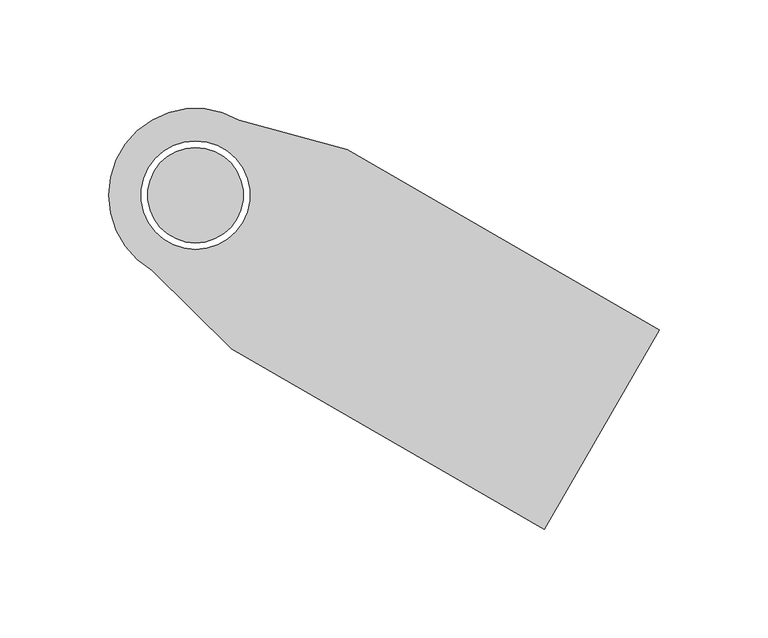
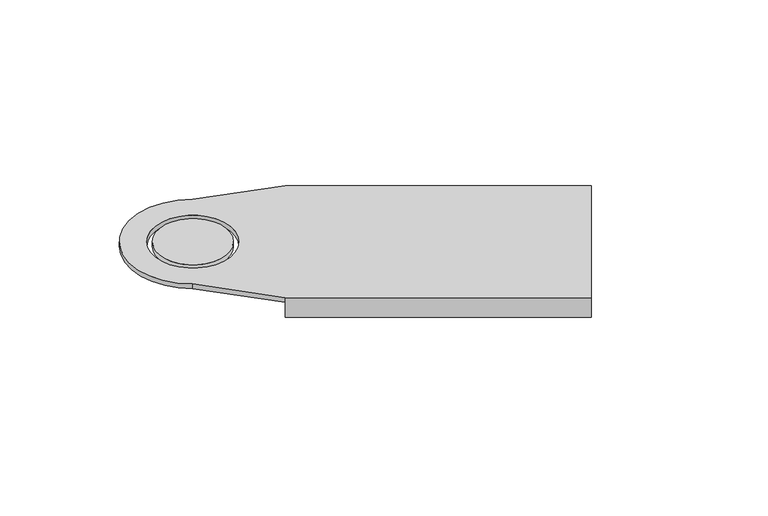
"""IFC4 building model written with IfcOpenShell, lengths in millimetres: cable carrier fitting geometry, BAKS_LDLS_BEND_Articulated connector for LLDS_LGSU : LGSUT_H100."""

from ifc_helpers import new_model, si_unit, frame, origin, place, context, project, spatial, polyline, circle_curve, source, transform, mapped, element, save
from ifc_brep_helpers import plane_surface, cylinder_surface, revolved_surface, advanced_brep


def cable_carrier_fitting_5c8b0443(model_context):
    return source(origin(), model_context, "Body", "AdvancedBrep", [
        advanced_brep(
        [(160.5614872, -153.8993464, 3.0), (213.5614872, -62.1006536, 3.0), (69.8012702, 20.8993464, 3.0), (20.0, 34.6410162, 3.0), (-20.0, -34.6410162, 3.0), (16.8012702, -70.8993464, 3.0), (-21.6506351, 12.5, 3.0), (21.6506351, -12.5, 3.0), (69.8012702, 20.8993464, 0.0), (68.3012702, 18.3012702, 0.0), (212.0614872, -64.6987298, 0.0), (162.0614872, -151.3012702, 0.0), (18.3012702, -68.3012702, 0.0), (16.8012702, -70.8993464, 0.0), (-20.0, -34.6410162, 0.0), (20.0, 34.6410162, 0.0), (21.6506351, -12.5, 0.0), (-21.6506351, 12.5, 0.0), (16.8012702, -70.8993464, -10.0), (160.5614872, -153.8993464, -10.0), (213.5614872, -62.1006536, -10.0), (69.8012702, 20.8993464, -10.0), (162.0614872, -151.3012702, -10.0), (212.0614872, -64.6987298, -10.0), (68.3012702, 18.3012702, -10.0), (18.3012702, -68.3012702, -10.0)],
        [
            (0, 1),
            (1, 2),
            (2, 3),
            (3, 4, circle_curve(frame((0.0, 0.0, 3.0), z_axis=(0.0, 0.0, 1.0), x_axis=(0.8660254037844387, -0.49999999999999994, 0.0)), 40.0)),
            (4, 5),
            (5, 0),
            (6, 7, circle_curve(frame((0.0, 0.0, 3.0), z_axis=(0.0, 0.0, -1.0), x_axis=(0.8660254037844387, -0.49999999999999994, 0.0)), 25.0)),
            (7, 6, circle_curve(frame((0.0, 0.0, 3.0), z_axis=(0.0, 0.0, -1.0), x_axis=(0.8660254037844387, -0.49999999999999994, 0.0)), 25.0)),
            (8, 9),
            (9, 10),
            (10, 11),
            (11, 12),
            (12, 13),
            (13, 14),
            (14, 15, circle_curve(frame((0.0, 0.0, 0.0), z_axis=(0.0, 0.0, -1.0), x_axis=(0.8660254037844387, -0.49999999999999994, 0.0)), 40.0)),
            (15, 8),
            (16, 17, circle_curve(frame((0.0, 0.0, 0.0), z_axis=(0.0, 0.0, 1.0), x_axis=(0.8660254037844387, -0.49999999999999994, 0.0)), 25.0)),
            (17, 16, circle_curve(frame((0.0, 0.0, 0.0), z_axis=(0.0, 0.0, 1.0), x_axis=(0.8660254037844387, -0.49999999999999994, 0.0)), 25.0)),
            (5, 13),
            (13, 18),
            (18, 19),
            (19, 0),
            (1, 20),
            (20, 21),
            (21, 8),
            (8, 2),
            (19, 22),
            (22, 11),
            (10, 23),
            (23, 20),
            (7, 16),
            (17, 6),
            (4, 14),
            (3, 15),
            (23, 24),
            (24, 21),
            (9, 24),
            (18, 25),
            (25, 22),
            (12, 25),
        ],
        [
            plane_surface(frame((16.8012702, -70.8993464, 3.0), z_axis=(0.0, 0.0, 1.0), x_axis=(-0.8660254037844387, 0.49999999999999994, 0.0))),
            plane_surface(frame((16.8012702, -70.8993464, 0.0), z_axis=(0.0, 0.0, -1.0), x_axis=(0.8660254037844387, -0.49999999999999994, 0.0))),
            plane_surface(frame((160.5614872, -153.8993464, 3.0), z_axis=(-0.49999999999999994, -0.8660254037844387, 0.0), x_axis=(0.0, 0.0, -1.0))),
            plane_surface(frame((69.8012702, 20.8993464, 3.0), z_axis=(0.49999999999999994, 0.8660254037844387, 0.0), x_axis=(0.0, 0.0, -1.0))),
            plane_surface(frame((213.5614872, -62.1006536, 3.0), z_axis=(0.8660254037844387, -0.49999999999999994, 0.0), x_axis=(0.0, 0.0, -1.0))),
            revolved_surface(polyline([(21.65063509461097, -12.499999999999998, 3.0), (21.65063509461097, -12.499999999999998, 0.0)]), (0.0, 0.0, 0.0), (0.0, 0.0, 1.0)),
            plane_surface(frame((16.8012702, -70.8993464, 3.0), z_axis=(-0.7018325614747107, -0.7123419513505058, 0.0), x_axis=(0.0, 0.0, -1.0))),
            cylinder_surface(frame((0.0, 0.0, 0.0), z_axis=(0.0, 0.0, 1.0), x_axis=(0.8660254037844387, -0.49999999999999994, 0.0)), 40.0),
            plane_surface(frame((20.0, 34.6410162, 3.0), z_axis=(0.2659899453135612, 0.9639758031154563, 0.0), x_axis=(0.0, 0.0, -1.0))),
            plane_surface(frame((68.3012702, 18.3012702, -10.0), z_axis=(0.0, 0.0, -1.0), x_axis=(0.8660254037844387, -0.5, 0.0))),
            plane_surface(frame((212.0614872, -64.6987298, 0.0), z_axis=(-0.5, -0.8660254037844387, 0.0), x_axis=(0.0, 0.0, -1.0))),
            plane_surface(frame((68.3012702, 18.3012702, 0.0), z_axis=(-0.8660254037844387, 0.49999999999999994, 0.0), x_axis=(0.0, 0.0, -1.0))),
            plane_surface(frame((16.8012702, -70.8993464, -10.0), z_axis=(0.0, 0.0, -1.0), x_axis=(0.8660254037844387, -0.49999999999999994, 0.0))),
            plane_surface(frame((16.8012702, -70.8993464, 0.0), z_axis=(-0.8660254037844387, 0.49999999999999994, 0.0), x_axis=(0.0, 0.0, -1.0))),
            plane_surface(frame((18.3012702, -68.3012702, 0.0), z_axis=(0.5, 0.8660254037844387, 0.0), x_axis=(0.0, 0.0, -1.0))),
        ],
        [
            (0, [[1, 2, 3, 4, 5, 6], [7, 8]]),
            (1, [[9, 10, 11, 12, 13, 14, 15, 16], [17, 18]]),
            (2, [[19, 20, 21, 22, -6]]),
            (3, [[23, 24, 25, 26, -2]]),
            (4, [[27, 28, -11, 29, 30, -23, -1, -22]]),
            (5, [[-8, 31, -18, 32]]),
            (5, [[-17, -31, -7, -32]]),
            (6, [[33, -14, -19, -5]]),
            (7, [[34, -15, -33, -4]]),
            (8, [[-26, -16, -34, -3]]),
            (9, [[35, 36, -24, -30]]),
            (10, [[-29, -10, 37, -35]]),
            (11, [[-37, -9, -25, -36]]),
            (12, [[-21, 38, 39, -27]]),
            (13, [[-20, -13, 40, -38]]),
            (14, [[-40, -12, -28, -39]]),
        ],
    ),
        advanced_brep(
        [(-19.0525589, 11.0, 3.0), (19.0525589, -11.0, 3.0), (19.0525589, -11.0, 0.0), (-19.0525589, 11.0, 0.0)],
        [
            (0, 1, circle_curve(frame((0.0, 0.0, 3.0), z_axis=(0.0, 0.0, 1.0), x_axis=(0.8660254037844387, -0.49999999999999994, 0.0)), 22.0)),
            (1, 0, circle_curve(frame((0.0, 0.0, 3.0), z_axis=(0.0, 0.0, 1.0), x_axis=(0.8660254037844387, -0.49999999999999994, 0.0)), 22.0)),
            (2, 3, circle_curve(frame((0.0, 0.0, 0.0), z_axis=(0.0, 0.0, -1.0), x_axis=(0.8660254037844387, -0.49999999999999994, 0.0)), 22.0)),
            (3, 2, circle_curve(frame((0.0, 0.0, 0.0), z_axis=(0.0, 0.0, -1.0), x_axis=(0.8660254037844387, -0.49999999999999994, 0.0)), 22.0)),
            (1, 2),
            (3, 0),
        ],
        [
            plane_surface(frame((16.8012702, -70.8993464, 3.0), z_axis=(0.0, 0.0, 1.0), x_axis=(-0.8660254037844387, 0.49999999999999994, 0.0))),
            plane_surface(frame((16.8012702, -70.8993464, 0.0), z_axis=(0.0, 0.0, -1.0), x_axis=(0.8660254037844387, -0.49999999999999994, 0.0))),
            cylinder_surface(frame((0.0, 0.0, 0.0), z_axis=(0.0, 0.0, -1.0), x_axis=(0.8660254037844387, -0.49999999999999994, 0.0)), 22.0),
        ],
        [
            (0, [[1, 2]]),
            (1, [[3, 4]]),
            (2, [[-2, 5, -4, 6]]),
            (2, [[-3, -5, -1, -6]]),
        ],
    ),
    ])


if __name__ == "__main__":
    model = new_model("IFC4")
    model_context = context("Model", 3, world=origin())
    ifc_project = project(units=[si_unit("LENGTHUNIT", "METRE", prefix="MILLI")], contexts=[model_context])
    site = spatial("IfcSite", under=ifc_project)
    building = spatial("IfcBuilding", under=site)
    placement = place(None, origin())
    cable_carrier_fitting_shape = cable_carrier_fitting_5c8b0443(model_context)
    element("IfcCableCarrierFitting", 1, ObjectType="BAKS_LDLS_BEND_Articulated connector for LLDS_LGSU : LGSUT_H100", at=placement, inside=building, context=model_context, shape_type="MappedRepresentation", body=[
        mapped(cable_carrier_fitting_shape, transform((0.0, 0.0, 0.0), x_axis=(1.0, 0.0, 0.0), y_axis=(0.0, 1.0, 0.0), z_axis=(0.0, 0.0, 1.0))),
    ])
    save(model, "model.ifc")
